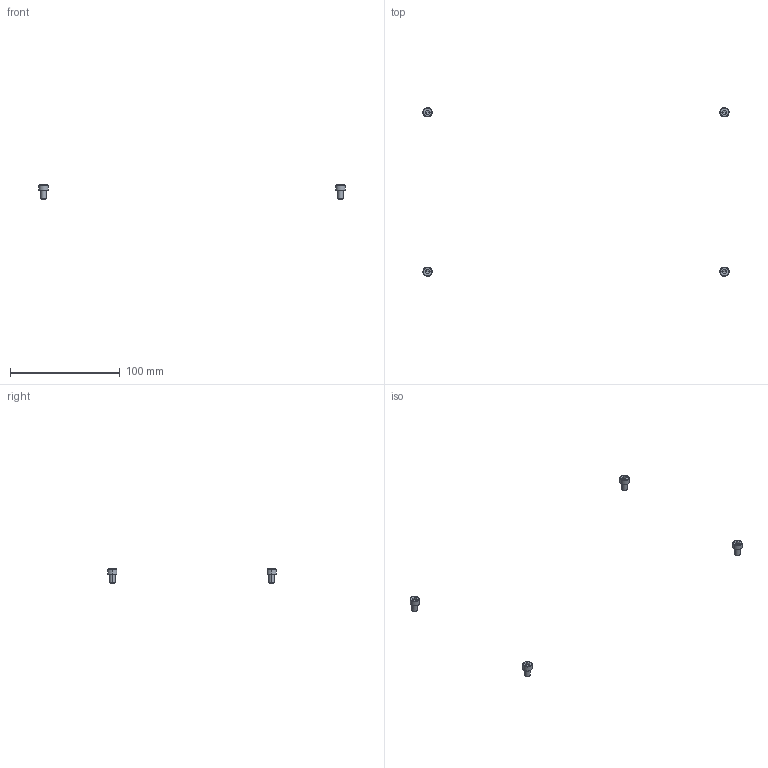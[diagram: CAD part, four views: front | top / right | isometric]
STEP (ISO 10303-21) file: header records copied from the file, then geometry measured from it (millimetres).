
FILE_DESCRIPTION(/* description */ (''),/* implementation_level */ '2;1');
FILE_NAME(/* name */ 'OP2E54~1',/* time_stamp */ '2014-02-14T19:48:53+01:00',/* author */ (''),/* organization */ (''),/* preprocessor_version */ 'ST-DEVELOPER v14',/* originating_system */ '',/* authorisation */ '');
FILE_SCHEMA (('AUTOMOTIVE_DESIGN'));
Length unit declared in the file: millimetre
Products named in the file (2): Document; screw DIN912-like, M5x08
Assembly tree (4 placements, depth 2):
  Document
    screw DIN912-like, M5x08  x4
Bounding box: 278.5 x 153.48 x 13 mm (x, y, z)
Volume: 1596.2 mm3; surface area: 1579.5 mm2
Topology: 4 solids, 4 shells, 100 faces, 224 edges, 132 vertices
Faces by surface type: plane 60, bspline 40
Entity records: 1429 total; most frequent: CARTESIAN_POINT 635, B_SPLINE_CURVE_WITH_KNOTS 126, ORIENTED_EDGE 108, PCURVE 108, DEFINITIONAL_REPRESENTATION 108, SURFACE_CURVE 54, EDGE_CURVE 54, VERTEX_POINT 33
